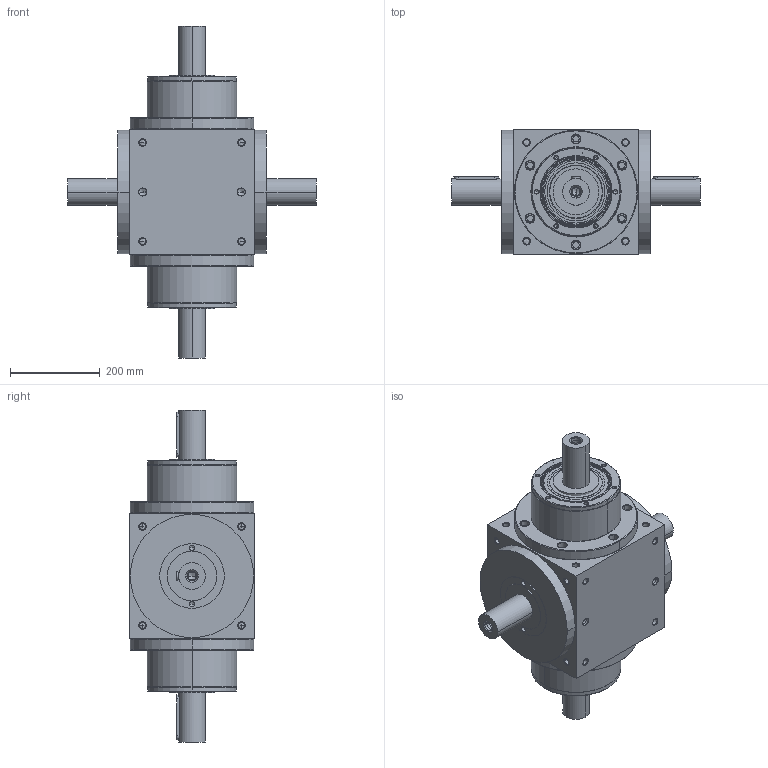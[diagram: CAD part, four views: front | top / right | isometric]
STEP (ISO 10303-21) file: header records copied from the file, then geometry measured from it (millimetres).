
FILE_DESCRIPTION((''),'2;1');
FILE_NAME('AT2804M-1_ASM','2010-02-09T',('d00080'),(''),'PRO/ENGINEER BY PARAMETRIC TECHNOLOGY CORPORATION, 2008170','PRO/ENGINEER BY PARAMETRIC TECHNOLOGY CORPORATION, 2008170','');
FILE_SCHEMA(('CONFIG_CONTROL_DESIGN'));
Length unit declared in the file: millimetre
Products named in the file (4): AT4M-HOUSING-1-A; P1801A00001; 22400071010; AT2804M-1_ASM
Assembly tree (5 placements, depth 2):
  AT2804M-1_ASM
    AT4M-HOUSING-1-A
    P1801A00001  x2
    22400071010  x2
Bounding box: 554 x 280 x 740 mm (x, y, z)
Volume: 32145332.9 mm3; surface area: 1352884.3 mm2
Topology: 7 solids, 47 shells, 874 faces, 2088 edges, 1236 vertices
Faces by surface type: cylinder 380, cone 304, plane 118, torus 72
Entity records: 19070 total; most frequent: CARTESIAN_POINT 3966, DIRECTION 3394, ORIENTED_EDGE 2856, EDGE_CURVE 1496, AXIS2_PLACEMENT_3D 1421, VERTEX_POINT 937, CIRCLE 768, EDGE_LOOP 761
